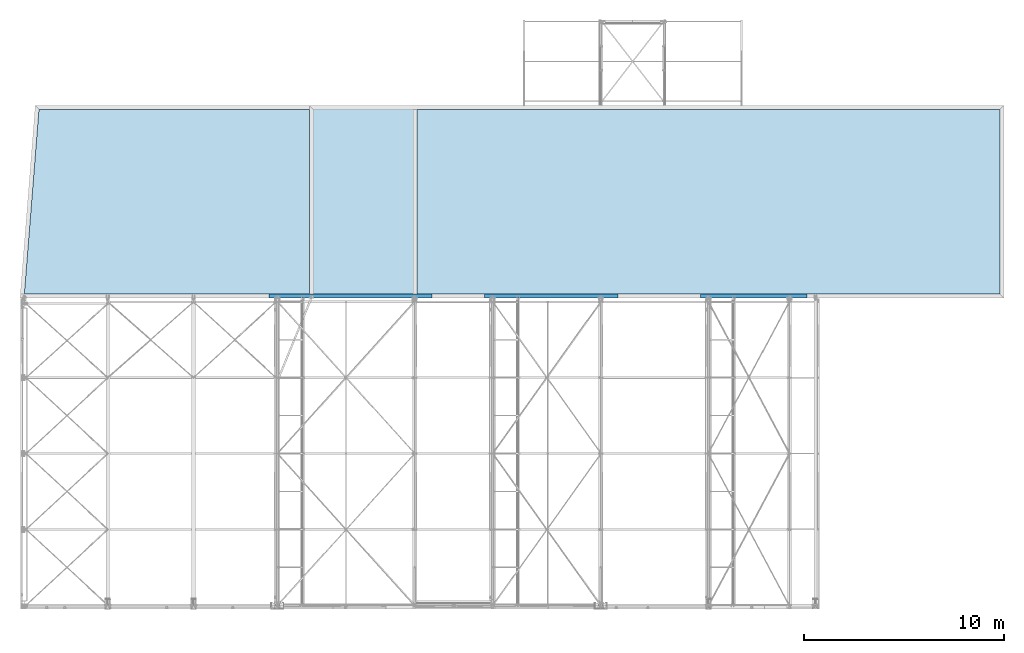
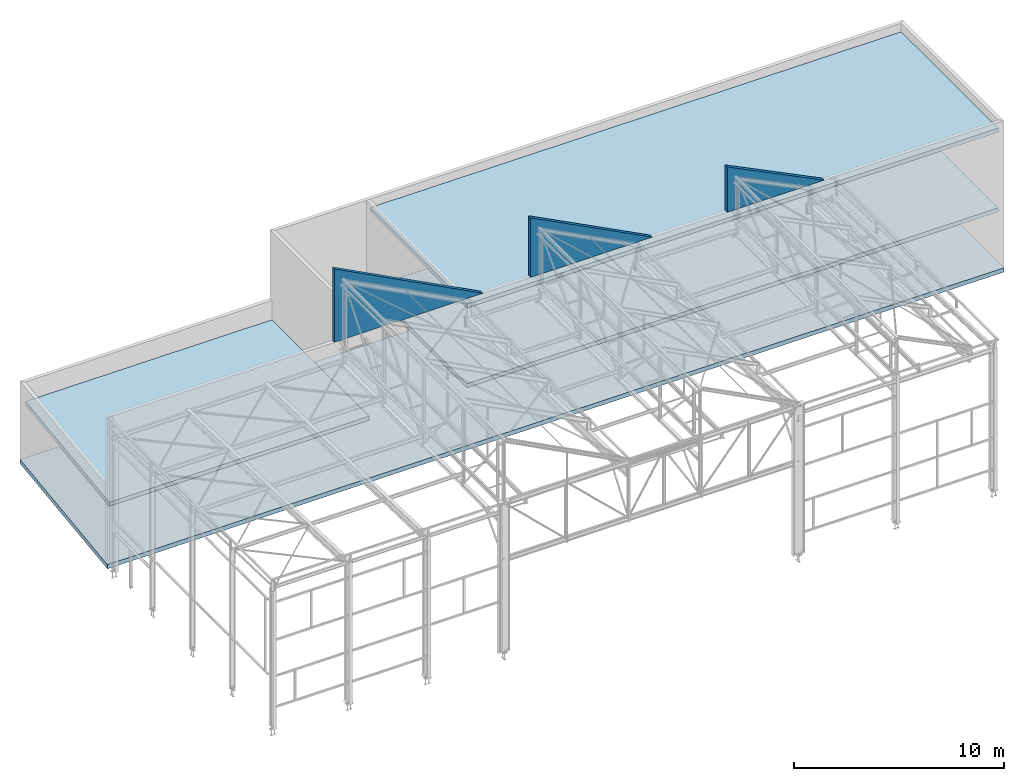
# One storey, part 50 of 123: 7 slabs, 7 elements without a shape of their own.
"""IFC2X3 building model written with IfcOpenShell, lengths in millimetres."""

from ifc_helpers import new_model, si_unit, frame, origin_with_axes, place, context, subcontext, project, spatial, polyline, outline, extrude, material, type_object, element, aggregate, save


model = new_model("IFC2X3")

# Units and contexts
model_context = context("Model", 3, precision=1e-05, world=origin_with_axes())
body_context = subcontext(model_context, "Body", "Model", "MODEL_VIEW")
ifc_project = project(units=[si_unit("LENGTHUNIT", "METRE", prefix="MILLI"), si_unit("AREAUNIT", "SQUARE_METRE"), si_unit("VOLUMEUNIT", "CUBIC_METRE"), si_unit("MASSUNIT", "GRAM", prefix="KILO"), si_unit("TIMEUNIT", "SECOND"), si_unit("PLANEANGLEUNIT", "RADIAN"), si_unit("SOLIDANGLEUNIT", "STERADIAN"), si_unit("THERMODYNAMICTEMPERATUREUNIT", "DEGREE_CELSIUS"), si_unit("LUMINOUSINTENSITYUNIT", "LUMEN")], contexts=[model_context])

# Site, building, storey
site_placement = place(None, origin_with_axes())
site = spatial("IfcSite", under=ifc_project, at=site_placement, Name="Undefined", CompositionType="ELEMENT")
building_placement = place(site_placement, origin_with_axes())
building = spatial("IfcBuilding", under=site, at=building_placement, Name="Undefined", CompositionType="ELEMENT")
storey_placement = place(building_placement, origin_with_axes())
storey = spatial("IfcBuildingStorey", under=building, at=storey_placement, Name="Undefined", CompositionType="ELEMENT", Elevation=0.0)

# Assembly, slab
assembly_1_placement = place(storey_placement, origin_with_axes())
assembly_1 = element("IfcElementAssembly", 1, at=assembly_1_placement, inside=storey, Name="DALLE", AssemblyPlace="NOTDEFINED", PredefinedType="REINFORCEMENT_UNIT")
ifc_material = material(Name="CONCRETE/C25/30")
slab_type_1 = type_object("IfcSlabType", Name="200*2637", PredefinedType="NOTDEFINED")
slab_1_placement = place(assembly_1_placement, frame((33863.500000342, 15489.999472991, 11186.7651512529), z_axis=(0.0, -1.0, 0.0), x_axis=(0.0, 0.0, -1.0)))
slab_1 = element("IfcSlab", 2, at=slab_1_placement, type_object=slab_type_1, material=ifc_material, Name="DALLE", ObjectType="200*2637", PredefinedType="FLOOR", context=body_context, shape_type="SweptSolid", body=[
    extrude(outline(polyline([(0.0, 0.0), (2636.76513671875, 7.27595761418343e-12), (2636.76513671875, 5336.62353515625), (0.0, 0.0)])), frame((0.0, 0.0, -100.0), z_axis=(0.0, 0.0, 1.0), x_axis=(1.0, 0.0, 0.0)), (0.0, 0.0, 1.0), 200.0),
])
aggregate(assembly_1, [slab_1])

assembly_2_placement = place(storey_placement, origin_with_axes())
assembly_2 = element("IfcElementAssembly", 3, at=assembly_2_placement, inside=storey, Name="DALLE", AssemblyPlace="NOTDEFINED", PredefinedType="REINFORCEMENT_UNIT")
slab_type_2 = type_object("IfcSlabType", Name="200*3465", PredefinedType="NOTDEFINED")
slab_2_placement = place(assembly_2_placement, frame((23053.500001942, 15489.9996870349, 12015.3051710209), z_axis=(0.0, -1.0, 0.0), x_axis=(0.0, 0.0, -1.0)))
slab_2 = element("IfcSlab", 4, at=slab_2_placement, type_object=slab_type_2, material=ifc_material, Name="DALLE", ObjectType="200*3465", PredefinedType="FLOOR", context=body_context, shape_type="SweptSolid", body=[
    extrude(outline(polyline([(0.0, 0.0), (3465.30517578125, 3.63797880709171e-12), (3465.30517578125, 6687.21533203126), (0.0, 0.0)])), frame((0.0, 0.0, -100.0), z_axis=(0.0, 0.0, 1.0), x_axis=(1.0, 0.0, 0.0)), (0.0, 0.0, 1.0), 200.0),
])
aggregate(assembly_2, [slab_2])

assembly_3_placement = place(storey_placement, origin_with_axes())
assembly_3 = element("IfcElementAssembly", 5, at=assembly_3_placement, inside=storey, Name="DALLE", AssemblyPlace="NOTDEFINED", PredefinedType="REINFORCEMENT_UNIT")
slab_type_3 = type_object("IfcSlabType", Name="200*4269", PredefinedType="NOTDEFINED")
slab_3_placement = place(assembly_3_placement, frame((12263.500001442, 15489.9997800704, 12819.4958445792), z_axis=(0.0, -1.0, 0.0), x_axis=(0.0, 0.0, -1.0)))
slab_3 = element("IfcSlab", 6, at=slab_3_placement, type_object=slab_type_3, material=ifc_material, Name="DALLE", ObjectType="200*4269", PredefinedType="FLOOR", context=body_context, shape_type="SweptSolid", body=[
    extrude(outline(polyline([(0.0, 0.0), (4269.49560546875, 0.0), (4269.49560546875, 8161.57763671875), (0.0, 0.0)])), frame((0.0, 0.0, -100.0), z_axis=(0.0, 0.0, 1.0), x_axis=(1.0, 0.0, 0.0)), (0.0, 0.0, 1.0), 200.0),
])
aggregate(assembly_3, [slab_3])

assembly_4_placement = place(storey_placement, origin_with_axes())
assembly_4 = element("IfcElementAssembly", 7, at=assembly_4_placement, inside=storey, Name="DALLE", AssemblyPlace="NOTDEFINED", PredefinedType="REINFORCEMENT_UNIT")
slab_type_4 = type_object("IfcSlabType", Name="250*9650", PredefinedType="NOTDEFINED")
slab_4_placement = place(assembly_4_placement, frame((547.602542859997, 25039.9999999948, -125.0), z_axis=(0.0, 0.0, 1.0), x_axis=(-0.0789064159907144, -0.996882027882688, 0.0)))
slab_4 = element("IfcSlab", 8, at=slab_4_placement, type_object=slab_type_4, material=ifc_material, Name="DALLE", ObjectType="250*9650", PredefinedType="FLOOR", context=body_context, shape_type="SweptSolid", body=[
    extrude(outline(polyline([(0.0, 0.0), (9680.18261708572, -1.70985003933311e-10), (5790.39453118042, 49142.5234374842), (-3829.51757809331, 48381.0742187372), (0.0, 0.0)])), frame((0.0, 0.0, -125.0), z_axis=(0.0, 0.0, 1.0), x_axis=(1.0, 0.0, 0.0)), (0.0, 0.0, 1.0), 250.0),
])
aggregate(assembly_4, [slab_4])

assembly_5_placement = place(storey_placement, origin_with_axes())
assembly_5 = element("IfcElementAssembly", 9, at=assembly_5_placement, inside=storey, Name="DALLE", AssemblyPlace="NOTDEFINED", PredefinedType="REINFORCEMENT_UNIT")
slab_type_5 = type_object("IfcSlabType", Name="230*9250", PredefinedType="NOTDEFINED")
slab_5_placement = place(assembly_5_placement, frame((19680.0, 24839.9999999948, 3315.0), z_axis=(0.0, 0.0, 1.0), x_axis=(0.0, -1.0, 0.0)))
slab_5 = element("IfcSlab", 10, at=slab_5_placement, type_object=slab_type_5, material=ifc_material, Name="DALLE", ObjectType="230*9250", PredefinedType="FLOOR", context=body_context, shape_type="SweptSolid", body=[
    extrude(outline(polyline([(0.0, 0.0), (9250.0, 3.63797880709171e-12), (9250.0009765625, 29199.998046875), (0.000105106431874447, 29200.0), (0.0, 0.0)])), frame((0.0, 0.0, -115.0), z_axis=(0.0, 0.0, 1.0), x_axis=(1.0, 0.0, 0.0)), (0.0, 0.0, 1.0), 230.0),
])
aggregate(assembly_5, [slab_5])

assembly_6_placement = place(storey_placement, origin_with_axes())
assembly_6 = element("IfcElementAssembly", 11, at=assembly_6_placement, inside=storey, Name="DALLE", AssemblyPlace="NOTDEFINED", PredefinedType="REINFORCEMENT_UNIT")
slab_6_placement = place(assembly_6_placement, frame((19680.0, 24839.9999999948, 7945.0), z_axis=(0.0, 0.0, 1.0), x_axis=(0.0, -1.0, 0.0)))
slab_6 = element("IfcSlab", 12, at=slab_6_placement, type_object=slab_type_5, material=ifc_material, Name="DALLE", ObjectType="230*9250", PredefinedType="FLOOR", context=body_context, shape_type="SweptSolid", body=[
    extrude(outline(polyline([(0.0, 0.0), (9250.0, 3.63797880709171e-12), (9250.0009765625, 29199.998046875), (0.000105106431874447, 29200.0), (0.0, 0.0)])), frame((0.0, 0.0, -115.0), z_axis=(0.0, 0.0, 1.0), x_axis=(1.0, 0.0, 0.0)), (0.0, 0.0, 1.0), 230.0),
])
aggregate(assembly_6, [slab_6])

assembly_7_placement = place(storey_placement, origin_with_axes())
assembly_7 = element("IfcElementAssembly", 13, at=assembly_7_placement, inside=storey, Name="DALLE", AssemblyPlace="NOTDEFINED", PredefinedType="REINFORCEMENT_UNIT")
slab_7_placement = place(assembly_7_placement, frame((732.397445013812, 24839.9999999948, 3315.0), z_axis=(0.0, 0.0, 1.0), x_axis=(-0.0789064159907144, -0.996882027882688, 0.0)))
slab_7 = element("IfcSlab", 14, at=slab_7_placement, type_object=slab_type_5, material=ifc_material, Name="DALLE", ObjectType="230*9250", PredefinedType="FLOOR", context=body_context, shape_type="SweptSolid", body=[
    extrude(outline(polyline([(0.0, 0.0), (9278.93164052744, -6.5210770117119e-09), (8152.16601553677, 14235.245117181), (-1068.99279784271, 13505.3623046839), (0.0, 0.0)])), frame((0.0, 0.0, -115.0), z_axis=(0.0, 0.0, 1.0), x_axis=(1.0, 0.0, 0.0)), (0.0, 0.0, 1.0), 230.0),
])
aggregate(assembly_7, [slab_7])

save(model, "model.ifc")
